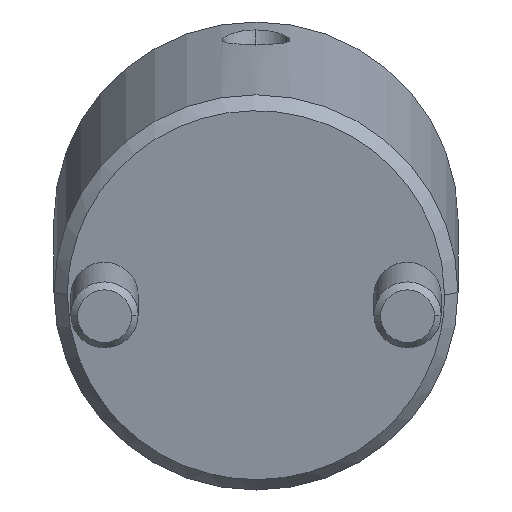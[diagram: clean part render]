
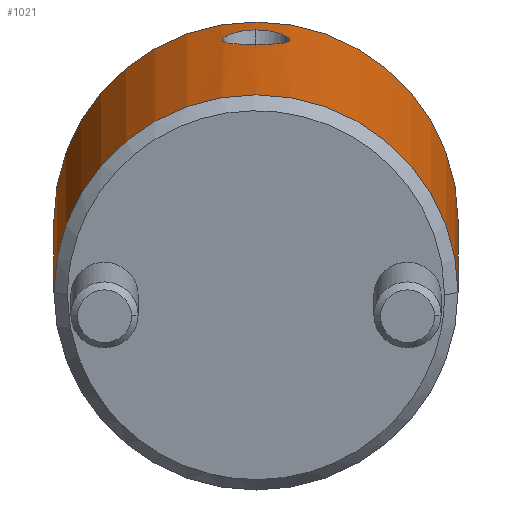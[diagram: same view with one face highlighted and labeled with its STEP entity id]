
A CAD part, front view. The second image highlights one B-rep face of the part: STEP entity #1021.
In plain terms, the highlighted cylindrical face has radius 15 mm (diameter 30 mm), a partial arc.
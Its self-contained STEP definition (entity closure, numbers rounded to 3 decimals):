
#787=CARTESIAN_POINT('Vertex',(0.,15.,1.)) ;
#790=CARTESIAN_POINT('Axis2P3D Location',(0.,0.,1.)) ;
#794=CARTESIAN_POINT('Vertex',(0.,-15.,1.)) ;
#934=CARTESIAN_POINT('Axis2P3D Location',(0.,0.,-1.4)) ;
#939=CARTESIAN_POINT('Line Origine',(0.,15.,-1.4)) ;
#943=CARTESIAN_POINT('Vertex',(0.,15.,27.)) ;
#946=CARTESIAN_POINT('Axis2P3D Location',(0.,0.,27.)) ;
#950=CARTESIAN_POINT('Vertex',(0.,-15.,27.)) ;
#953=CARTESIAN_POINT('Line Origine',(0.,-15.,-1.4)) ;
#965=CARTESIAN_POINT('Control Point',(15.,0.,24.158)) ;
#966=CARTESIAN_POINT('Control Point',(15.,0.223,24.158)) ;
#967=CARTESIAN_POINT('Control Point',(14.996,0.444,24.134)) ;
#968=CARTESIAN_POINT('Control Point',(14.987,0.669,24.078)) ;
#969=CARTESIAN_POINT('Control Point',(14.963,1.104,23.918)) ;
#970=CARTESIAN_POINT('Control Point',(14.928,1.484,23.664)) ;
#971=CARTESIAN_POINT('Control Point',(14.909,1.662,23.513)) ;
#972=CARTESIAN_POINT('Control Point',(14.876,1.931,23.23)) ;
#973=CARTESIAN_POINT('Control Point',(14.846,2.144,22.899)) ;
#974=CARTESIAN_POINT('Control Point',(14.835,2.22,22.758)) ;
#975=CARTESIAN_POINT('Control Point',(14.815,2.351,22.469)) ;
#976=CARTESIAN_POINT('Control Point',(14.801,2.437,22.162)) ;
#977=CARTESIAN_POINT('Control Point',(14.796,2.468,22.007)) ;
#978=CARTESIAN_POINT('Control Point',(14.784,2.538,21.458)) ;
#979=CARTESIAN_POINT('Control Point',(14.796,2.464,20.906)) ;
#980=CARTESIAN_POINT('Control Point',(14.819,2.335,20.531)) ;
#981=CARTESIAN_POINT('Control Point',(14.867,2.024,19.992)) ;
#982=CARTESIAN_POINT('Control Point',(14.919,1.572,19.578)) ;
#983=CARTESIAN_POINT('Control Point',(14.938,1.383,19.441)) ;
#984=CARTESIAN_POINT('Control Point',(14.969,1.009,19.231)) ;
#985=CARTESIAN_POINT('Control Point',(14.99,0.59,19.105)) ;
#986=CARTESIAN_POINT('Control Point',(14.997,0.391,19.065)) ;
#987=CARTESIAN_POINT('Control Point',(15.,0.196,19.047)) ;
#988=CARTESIAN_POINT('Control Point',(15.,0.,19.047)) ;
#989=CARTESIAN_POINT('Vertex',(15.,0.,24.158)) ;
#991=CARTESIAN_POINT('Vertex',(15.,0.,19.047)) ;
#995=CARTESIAN_POINT('Control Point',(15.,0.,19.047)) ;
#996=CARTESIAN_POINT('Control Point',(15.,-0.15,19.047)) ;
#997=CARTESIAN_POINT('Control Point',(14.998,-0.301,19.057)) ;
#998=CARTESIAN_POINT('Control Point',(14.994,-0.451,19.08)) ;
#999=CARTESIAN_POINT('Control Point',(14.983,-0.754,19.15)) ;
#1000=CARTESIAN_POINT('Control Point',(14.965,-1.043,19.264)) ;
#1001=CARTESIAN_POINT('Control Point',(14.954,-1.179,19.331)) ;
#1002=CARTESIAN_POINT('Control Point',(14.909,-1.707,19.642)) ;
#1003=CARTESIAN_POINT('Control Point',(14.853,-2.125,20.104)) ;
#1004=CARTESIAN_POINT('Control Point',(14.815,-2.354,20.52)) ;
#1005=CARTESIAN_POINT('Control Point',(14.772,-2.606,21.452)) ;
#1006=CARTESIAN_POINT('Control Point',(14.803,-2.427,22.416)) ;
#1007=CARTESIAN_POINT('Control Point',(14.837,-2.225,22.87)) ;
#1008=CARTESIAN_POINT('Control Point',(14.892,-1.846,23.382)) ;
#1009=CARTESIAN_POINT('Control Point',(14.94,-1.351,23.749)) ;
#1010=CARTESIAN_POINT('Control Point',(14.951,-1.222,23.83)) ;
#1011=CARTESIAN_POINT('Control Point',(14.974,-0.915,23.992)) ;
#1012=CARTESIAN_POINT('Control Point',(14.991,-0.577,24.099)) ;
#1013=CARTESIAN_POINT('Control Point',(14.997,-0.384,24.14)) ;
#1014=CARTESIAN_POINT('Control Point',(15.,-0.193,24.158)) ;
#1015=CARTESIAN_POINT('Control Point',(15.,0.,24.158)) ;
#791=DIRECTION('Axis2P3D Direction',(0.,0.,1.)) ;
#935=DIRECTION('Axis2P3D Direction',(0.,-0.,1.)) ;
#936=DIRECTION('Axis2P3D XDirection',(0.,-1.,0.)) ;
#940=DIRECTION('Vector Direction',(0.,0.,1.)) ;
#947=DIRECTION('Axis2P3D Direction',(0.,-0.,1.)) ;
#954=DIRECTION('Vector Direction',(0.,0.,1.)) ;
#792=AXIS2_PLACEMENT_3D('Circle Axis2P3D',#790,#791,$) ;
#937=AXIS2_PLACEMENT_3D('Cylinder Axis2P3D',#934,#935,#936) ;
#948=AXIS2_PLACEMENT_3D('Circle Axis2P3D',#946,#947,$) ;
#959=ORIENTED_EDGE('',*,*,#945,.F.) ;
#960=ORIENTED_EDGE('',*,*,#952,.T.) ;
#961=ORIENTED_EDGE('',*,*,#957,.T.) ;
#962=ORIENTED_EDGE('',*,*,#796,.F.) ;
#1018=ORIENTED_EDGE('',*,*,#993,.T.) ;
#1019=ORIENTED_EDGE('',*,*,#1016,.T.) ;
#1020=FACE_BOUND('',#1017,.T.) ;
#941=VECTOR('Line Direction',#940,1.) ;
#955=VECTOR('Line Direction',#954,1.) ;
#1021=ADVANCED_FACE('MANIFOLD_SOLID_BREP #1110',(#963,#1020),#938,.T.) ;
#964=B_SPLINE_CURVE_WITH_KNOTS('',5,(#965,#966,#967,#968,#969,#970,#971,#972,#973,#974,#975,#976,#977,#978,#979,#980,#981,#982,#983,#984,#985,#986,#987,#988),.UNSPECIFIED.,.F.,.U.,(6,3,3,3,3,3,3,6),(0.,1.614,3.274,4.384,5.483,8.212,9.837,11.252),.UNSPECIFIED.) ;
#994=B_SPLINE_CURVE_WITH_KNOTS('',5,(#995,#996,#997,#998,#999,#1000,#1001,#1002,#1003,#1004,#1005,#1006,#1007,#1008,#1009,#1010,#1011,#1012,#1013,#1014,#1015),.UNSPECIFIED.,.F.,.U.,(6,3,3,3,3,3,6),(0.,1.095,2.187,5.473,8.792,9.874,11.262),.UNSPECIFIED.) ;
#793=CIRCLE('generated circle',#792,15.) ;
#949=CIRCLE('generated circle',#948,15.) ;
#938=CYLINDRICAL_SURFACE('generated cylinder',#937,15.) ;
#796=EDGE_CURVE('',#788,#795,#793,.F.) ;
#945=EDGE_CURVE('',#944,#788,#942,.F.) ;
#952=EDGE_CURVE('',#944,#951,#949,.F.) ;
#957=EDGE_CURVE('',#951,#795,#956,.F.) ;
#993=EDGE_CURVE('',#990,#992,#964,.T.) ;
#1016=EDGE_CURVE('',#992,#990,#994,.T.) ;
#958=EDGE_LOOP('',(#959,#960,#961,#962)) ;
#1017=EDGE_LOOP('',(#1018,#1019)) ;
#963=FACE_OUTER_BOUND('',#958,.T.) ;
#942=LINE('Line',#939,#941) ;
#956=LINE('Line',#953,#955) ;
#788=VERTEX_POINT('',#787) ;
#795=VERTEX_POINT('',#794) ;
#944=VERTEX_POINT('',#943) ;
#951=VERTEX_POINT('',#950) ;
#990=VERTEX_POINT('',#989) ;
#992=VERTEX_POINT('',#991) ;
